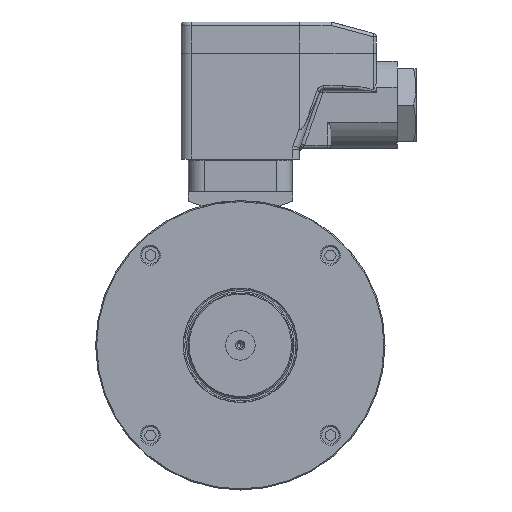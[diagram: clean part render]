
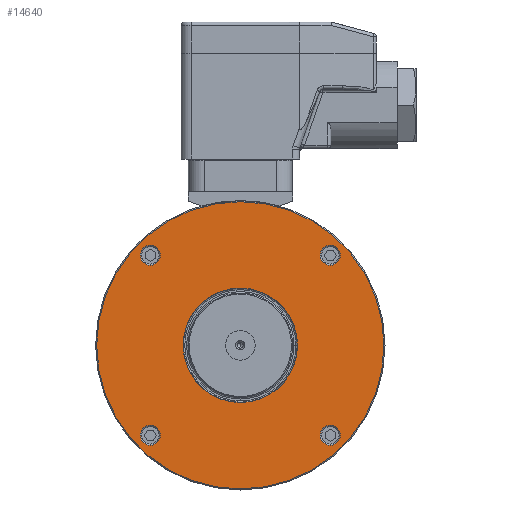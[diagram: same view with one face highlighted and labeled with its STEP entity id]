
A CAD part, left-side view. The second image highlights one B-rep face of the part: STEP entity #14640.
In plain terms, the highlighted planar face has unit normal (-1, 0, 0).
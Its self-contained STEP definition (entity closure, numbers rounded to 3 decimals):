
#3340 = DIRECTION ( 'NONE',  ( 1., 0., 0. ) ) ;
#3341 = CARTESIAN_POINT ( 'NONE',  ( -92., 0., 0. ) ) ;
#3344 = DIRECTION ( 'NONE',  ( 0., 1., 0. ) ) ;
#3368 = AXIS2_PLACEMENT_3D ( 'NONE', #3341, #3340, #3344 ) ;
#3373 = CIRCLE ( 'NONE', #3368, 16.4 ) ;
#3526 = CARTESIAN_POINT ( 'NONE',  ( -92., -16.4, 0. ) ) ;
#3587 = DIRECTION ( 'NONE',  ( 0., 1., 0. ) ) ;
#3588 = DIRECTION ( 'NONE',  ( 1., 0., 0. ) ) ;
#3589 = CIRCLE ( 'NONE', #3614, 41.2 ) ;
#3599 = CARTESIAN_POINT ( 'NONE',  ( -92., 0., 0. ) ) ;
#3614 = AXIS2_PLACEMENT_3D ( 'NONE', #3599, #3588, #3587 ) ;
#4017 = CARTESIAN_POINT ( 'NONE',  ( -92., -41.2, 0. ) ) ;
#4097 = CARTESIAN_POINT ( 'NONE',  ( -92., 41.2, 0. ) ) ;
#4098 = CARTESIAN_POINT ( 'NONE',  ( -92., 16.4, 0. ) ) ;
#9976 = CARTESIAN_POINT ( 'NONE',  ( -92., 25.809, 28.659 ) ) ;
#10232 = DIRECTION ( 'NONE',  ( 1., 0., 0. ) ) ;
#10270 = AXIS2_PLACEMENT_3D ( 'NONE', #10286, #10232, #10284 ) ;
#10271 = CARTESIAN_POINT ( 'NONE',  ( -92., 25.809, 22.959 ) ) ;
#10284 = DIRECTION ( 'NONE',  ( 0., -1., 0. ) ) ;
#10286 = CARTESIAN_POINT ( 'NONE',  ( -92., 25.809, 25.809 ) ) ;
#10339 = CIRCLE ( 'NONE', #10270, 2.85 ) ;
#10566 = CARTESIAN_POINT ( 'NONE',  ( -92., 25.809, -25.809 ) ) ;
#10740 = CARTESIAN_POINT ( 'NONE',  ( -92., -25.809, -28.659 ) ) ;
#10753 = DIRECTION ( 'NONE',  ( 0., -1., 0. ) ) ;
#10754 = DIRECTION ( 'NONE',  ( 1., 0., 0. ) ) ;
#10760 = CIRCLE ( 'NONE', #10774, 2.85 ) ;
#10774 = AXIS2_PLACEMENT_3D ( 'NONE', #10566, #10754, #10753 ) ;
#10782 = CARTESIAN_POINT ( 'NONE',  ( -92., -25.809, 28.659 ) ) ;
#10793 = CARTESIAN_POINT ( 'NONE',  ( -92., -25.809, 25.809 ) ) ;
#10796 = CARTESIAN_POINT ( 'NONE',  ( -92., 25.809, -28.659 ) ) ;
#10798 = CIRCLE ( 'NONE', #10813, 2.85 ) ;
#10811 = DIRECTION ( 'NONE',  ( 0., -1., 0. ) ) ;
#10812 = DIRECTION ( 'NONE',  ( 1., 0., 0. ) ) ;
#10813 = AXIS2_PLACEMENT_3D ( 'NONE', #10793, #10812, #10811 ) ;
#10933 = CARTESIAN_POINT ( 'NONE',  ( -92., 25.809, -22.959 ) ) ;
#11046 = CARTESIAN_POINT ( 'NONE',  ( -92., -25.809, 22.959 ) ) ;
#11089 = CARTESIAN_POINT ( 'NONE',  ( -92., -25.809, -25.809 ) ) ;
#11091 = CIRCLE ( 'NONE', #11195, 2.85 ) ;
#11193 = DIRECTION ( 'NONE',  ( 0., -1., 0. ) ) ;
#11194 = DIRECTION ( 'NONE',  ( 1., 0., 0. ) ) ;
#11195 = AXIS2_PLACEMENT_3D ( 'NONE', #11089, #11194, #11193 ) ;
#11232 = CARTESIAN_POINT ( 'NONE',  ( -92., -25.809, -22.959 ) ) ;
#14460 = ORIENTED_EDGE ( 'NONE', *, *, #14641, .T. ) ;
#14461 = EDGE_LOOP ( 'NONE', ( #14464, #14462 ) ) ;
#14462 = ORIENTED_EDGE ( 'NONE', *, *, #14463, .T. ) ;
#14463 = EDGE_CURVE ( 'NONE', #22112, #22089, #20974, .T. ) ;
#14464 = ORIENTED_EDGE ( 'NONE', *, *, #22111, .T. ) ;
#14465 = EDGE_LOOP ( 'NONE', ( #15764, #15695 ) ) ;
#14554 = EDGE_CURVE ( 'NONE', #22421, #22375, #21138, .T. ) ;
#14577 = EDGE_LOOP ( 'NONE', ( #14625, #14607 ) ) ;
#14584 = ORIENTED_EDGE ( 'NONE', *, *, #22495, .T. ) ;
#14603 = EDGE_LOOP ( 'NONE', ( #14584, #14605 ) ) ;
#14605 = ORIENTED_EDGE ( 'NONE', *, *, #14638, .T. ) ;
#14607 = ORIENTED_EDGE ( 'NONE', *, *, #14554, .T. ) ;
#14625 = ORIENTED_EDGE ( 'NONE', *, *, #22374, .T. ) ;
#14638 = EDGE_CURVE ( 'NONE', #22335, #22496, #21276, .T. ) ;
#14640 = ADVANCED_FACE ( 'NONE', ( #21295, #21278, #21265, #21260, #21274, #21259 ), #21168, .T. ) ;
#14641 = EDGE_CURVE ( 'NONE', #22371, #22414, #21003, .T. ) ;
#14642 = EDGE_LOOP ( 'NONE', ( #14760, #14460 ) ) ;
#14760 = ORIENTED_EDGE ( 'NONE', *, *, #22308, .T. ) ;
#15692 = EDGE_CURVE ( 'NONE', #18143, #18142, #27336, .T. ) ;
#15695 = ORIENTED_EDGE ( 'NONE', *, *, #15692, .F. ) ;
#15707 = EDGE_LOOP ( 'NONE', ( #15708, #15724 ) ) ;
#15708 = ORIENTED_EDGE ( 'NONE', *, *, #17943, .T. ) ;
#15723 = EDGE_CURVE ( 'NONE', #18072, #18169, #27276, .T. ) ;
#15724 = ORIENTED_EDGE ( 'NONE', *, *, #15723, .T. ) ;
#15764 = ORIENTED_EDGE ( 'NONE', *, *, #18039, .F. ) ;
#17943 = EDGE_CURVE ( 'NONE', #18169, #18072, #3373, .T. ) ;
#18039 = EDGE_CURVE ( 'NONE', #18142, #18143, #3589, .T. ) ;
#18072 = VERTEX_POINT ( 'NONE', #3526 ) ;
#18142 = VERTEX_POINT ( 'NONE', #4017 ) ;
#18143 = VERTEX_POINT ( 'NONE', #4097 ) ;
#18169 = VERTEX_POINT ( 'NONE', #4098 ) ;
#20849 = DIRECTION ( 'NONE',  ( 0., 1., 0. ) ) ;
#20941 = DIRECTION ( 'NONE',  ( 1., 0., 0. ) ) ;
#20944 = DIRECTION ( 'NONE',  ( 0., -1., 0. ) ) ;
#20945 = CARTESIAN_POINT ( 'NONE',  ( -92., 25.809, 25.809 ) ) ;
#20953 = AXIS2_PLACEMENT_3D ( 'NONE', #20945, #20941, #20944 ) ;
#20974 = CIRCLE ( 'NONE', #20953, 2.85 ) ;
#21003 = CIRCLE ( 'NONE', #21063, 2.85 ) ;
#21063 = AXIS2_PLACEMENT_3D ( 'NONE', #21148, #21149, #21145 ) ;
#21117 = DIRECTION ( 'NONE',  ( 0., -1., 0. ) ) ;
#21118 = DIRECTION ( 'NONE',  ( 1., 0., 0. ) ) ;
#21119 = CARTESIAN_POINT ( 'NONE',  ( -92., -25.809, 25.809 ) ) ;
#21132 = AXIS2_PLACEMENT_3D ( 'NONE', #21119, #21118, #21117 ) ;
#21138 = CIRCLE ( 'NONE', #21132, 2.85 ) ;
#21145 = DIRECTION ( 'NONE',  ( 0., -1., 0. ) ) ;
#21148 = CARTESIAN_POINT ( 'NONE',  ( -92., 25.809, -25.809 ) ) ;
#21149 = DIRECTION ( 'NONE',  ( 1., 0., 0. ) ) ;
#21158 = CARTESIAN_POINT ( 'NONE',  ( -92., 16.4, 0. ) ) ;
#21166 = AXIS2_PLACEMENT_3D ( 'NONE', #21158, #21175, #20849 ) ;
#21168 = PLANE ( 'NONE',  #21166 ) ;
#21175 = DIRECTION ( 'NONE',  ( -1., 0., 0. ) ) ;
#21259 = FACE_BOUND ( 'NONE', #15707, .T. ) ;
#21260 = FACE_BOUND ( 'NONE', #14461, .T. ) ;
#21261 = DIRECTION ( 'NONE',  ( 0., -1., 0. ) ) ;
#21262 = DIRECTION ( 'NONE',  ( 1., 0., 0. ) ) ;
#21265 = FACE_BOUND ( 'NONE', #14642, .T. ) ;
#21269 = CARTESIAN_POINT ( 'NONE',  ( -92., -25.809, -25.809 ) ) ;
#21274 = FACE_OUTER_BOUND ( 'NONE', #14465, .T. ) ;
#21276 = CIRCLE ( 'NONE', #21282, 2.85 ) ;
#21278 = FACE_BOUND ( 'NONE', #14603, .T. ) ;
#21282 = AXIS2_PLACEMENT_3D ( 'NONE', #21269, #21262, #21261 ) ;
#21295 = FACE_BOUND ( 'NONE', #14577, .T. ) ;
#22089 = VERTEX_POINT ( 'NONE', #9976 ) ;
#22111 = EDGE_CURVE ( 'NONE', #22089, #22112, #10339, .T. ) ;
#22112 = VERTEX_POINT ( 'NONE', #10271 ) ;
#22308 = EDGE_CURVE ( 'NONE', #22414, #22371, #10760, .T. ) ;
#22335 = VERTEX_POINT ( 'NONE', #10740 ) ;
#22371 = VERTEX_POINT ( 'NONE', #10796 ) ;
#22374 = EDGE_CURVE ( 'NONE', #22375, #22421, #10798, .T. ) ;
#22375 = VERTEX_POINT ( 'NONE', #10782 ) ;
#22414 = VERTEX_POINT ( 'NONE', #10933 ) ;
#22421 = VERTEX_POINT ( 'NONE', #11046 ) ;
#22495 = EDGE_CURVE ( 'NONE', #22496, #22335, #11091, .T. ) ;
#22496 = VERTEX_POINT ( 'NONE', #11232 ) ;
#27256 = DIRECTION ( 'NONE',  ( 0., 1., 0. ) ) ;
#27257 = DIRECTION ( 'NONE',  ( 1., 0., 0. ) ) ;
#27258 = AXIS2_PLACEMENT_3D ( 'NONE', #27265, #27257, #27256 ) ;
#27265 = CARTESIAN_POINT ( 'NONE',  ( -92., 0., 0. ) ) ;
#27276 = CIRCLE ( 'NONE', #27258, 16.4 ) ;
#27325 = DIRECTION ( 'NONE',  ( 0., 1., 0. ) ) ;
#27336 = CIRCLE ( 'NONE', #27345, 41.2 ) ;
#27344 = CARTESIAN_POINT ( 'NONE',  ( -92., 0., 0. ) ) ;
#27345 = AXIS2_PLACEMENT_3D ( 'NONE', #27344, #27356, #27325 ) ;
#27356 = DIRECTION ( 'NONE',  ( 1., 0., 0. ) ) ;
